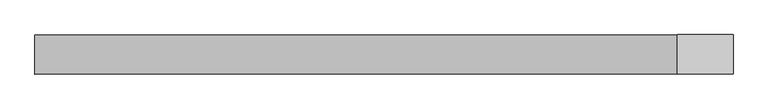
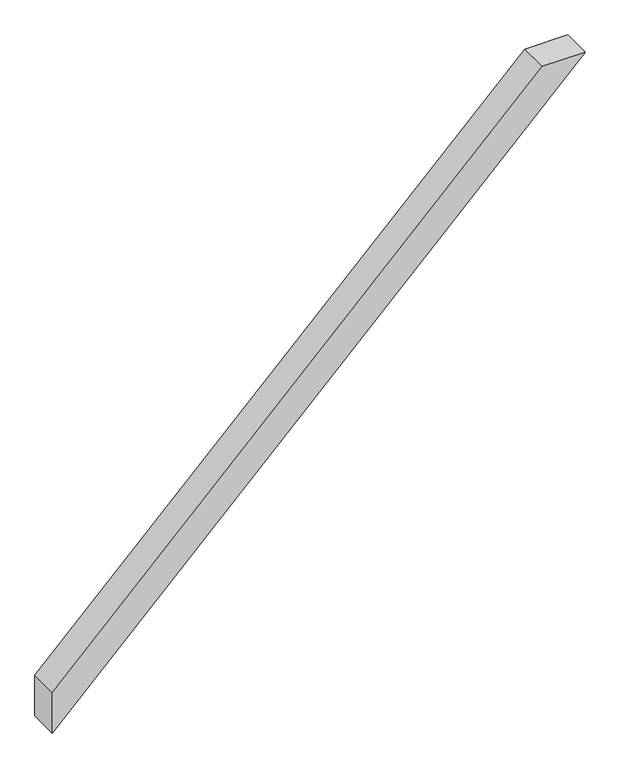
"""IFC4 building model written with IfcOpenShell, lengths in millimetres: proxy geometry, Modelos genéricos 43 : Modelos genéricos 23."""

from ifc_helpers import new_model, si_unit, frame, origin, place, context, project, spatial, polyline, outline, extrude, source, transform, mapped, element, save


def generic_models_e438c8ae(model_context):
    return source(origin(), model_context, "Body", "SweptSolid", [
        extrude(outline(polyline([(4220.0, -7906.7628093), (4220.0, -7991.615623), (3244.8528137, -8966.7628093), (3160.0, -8966.7628093), (4220.0, -7906.7628093)])), frame((0.0, 1918.6238165, 0.0), z_axis=(0.0, 1.0, 0.0), x_axis=(0.0, 0.0, 1.0)), (0.0, 0.0, 1.0), 60.0),
    ])


if __name__ == "__main__":
    model = new_model("IFC4")
    model_context = context("Model", 3, world=origin())
    ifc_project = project(units=[si_unit("LENGTHUNIT", "METRE", prefix="MILLI")], contexts=[model_context])
    site = spatial("IfcSite", under=ifc_project)
    building = spatial("IfcBuilding", under=site)
    placement = place(None, origin())
    generic_models_shape = generic_models_e438c8ae(model_context)
    element("IfcBuildingElementProxy", 1, Name="Modelos genéricos 43 : Modelos genéricos 23", ObjectType="Modelos genéricos 43 : Modelos genéricos 23", at=placement, inside=building, context=model_context, shape_type="MappedRepresentation", body=[
        mapped(generic_models_shape, transform((0.0, 0.0, 0.0), x_axis=(1.0, 0.0, 0.0), y_axis=(0.0, 1.0, 0.0), z_axis=(0.0, 0.0, 1.0))),
    ])
    save(model, "model.ifc")
